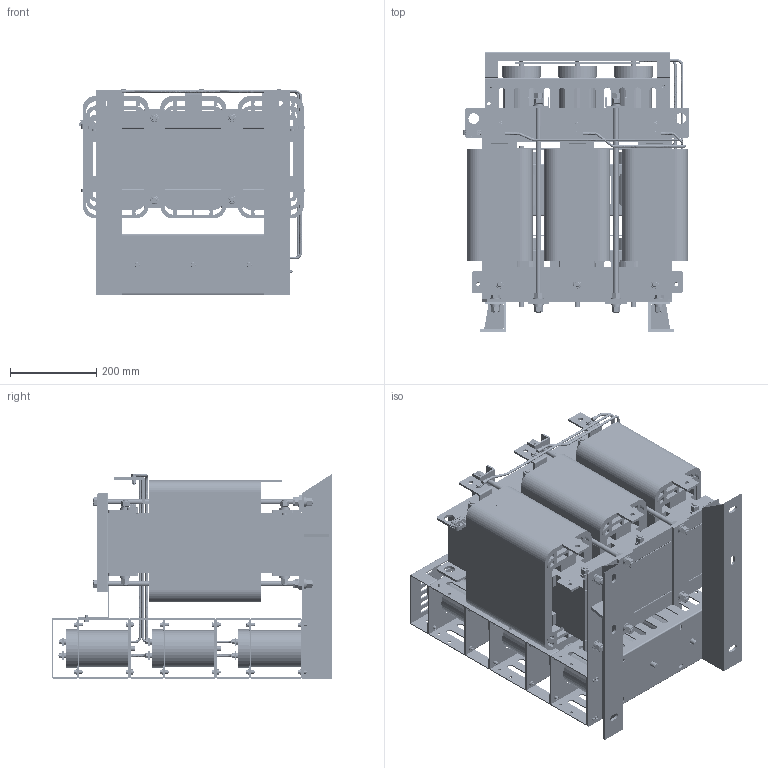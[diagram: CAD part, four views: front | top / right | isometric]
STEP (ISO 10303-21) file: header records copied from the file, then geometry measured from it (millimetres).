
FILE_DESCRIPTION(('STEP AP203'), '1');
FILE_NAME('蔓躅漤铋 耔眢耥 翳朦蝠 _ ISINOF-220_286-6', '', ('UNSPECIFIED'), ('UNSPECIFIED'), 'C3D Converter', 'C3D Toolkit', '');
FILE_SCHEMA(('CONFIG_CONTROL_DESIGN'));
Length unit declared in the file: millimetre
Products named in the file (49): ISINOF-220/286-6; LРНЦ吭X2\04560415\X0\1; M12x210; M12x520; RNB14-6S; 吒X2\0425\X0\86-145; UРНС№Мх 50x25x4; 琵X2\04270405041504230422\X0\; 琵X2\04270405041504270443\X0\; 琵X2\04370418042D0426\X0\吭X2\04560415\X0\; 愧X2\0437\X0\琵X2\0410\X0\ іЕМх; ёЗЧУ; №么X2\04270426041C0445\X0\12x10x260; ї琵X2\041E\X0\做зЧУKV223-2P; А降еМх450-80-2; А降еМх琵X2\0436\X0\豹X2\0435\X0\80-98-2; Б枯X2\04050423\X0\豹X2\0435\X0\; ДЪДёЕЕ40x5; ЖЅ豹X2\043504560415\X0\豹X2\0435\X0\ 12X30X260; ЖЅ豹X2\043504560415\X0\豹X2\0435\X0\20X50X260; ИэПаМъРѕ440-450-136; ЙПјРјю-560ЎБ80ЎБ6; НвДёЕЕ40x5; ПВјРјю-490ЎБ80ЎБ40; ПЯИ¦286A; С№豹X2\0435\X0\; ПВјРјю490ЎБ80ЎБ40; plain washers--product grade c gb_GB_FASTENER_WASHER_SMWC 12; spring lock washers--normal type gb_GB_FASTENER_WASHER_SW 12; hexagon nuts grade c gb_GB_FASTENER_NUT_SNC1 M12-N; hex head bolts-full thread grade c gb_GB_FASTENER_BOLT_HHBFTC M12X35-N; plain washers--product grade c gb_GB_FASTENER_WASHER_SMWC 6; hex head bolts-full thread grade c gb_GB_FASTENER_BOLT_HHBFTC M6X12-N; 琵X2\04370418042D0458042C\X0\ ; Cable_1-ХэПТІЁВЛІЁЖчSKS-SF-0286-6AЈЇ05-001; 琵X2\043704100412\X0\^Cable_1-ХэПТІЁВЛІЁЖчSKS-SF-0286-6AЈЇ05-001; Cable_2-ХэПТІЁВЛІЁЖчSKS-SF-0286-6AЈЇ05; 琵X2\043704100412\X0\^Cable_2-ХэПТІЁВЛІЁЖчSKS-SF-0286-6AЈЇ05; Cable_3-ХэПТІЁВЛІЁЖчSKS-SF-0286-6AЈЇ05; 琵X2\043704100412\X0\^Cable_3-ХэПТІЁВЛІЁЖчSKS-SF-0286-6AЈЇ05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
Assembly tree (350 placements, depth 3):
  ISINOF-220/286-6
    LРНЦ吭X2\04560415\X0\1
    M12x210  x6
    M12x520  x4
    RNB14-6S  x9
    吒X2\0425\X0\86-145  x9
    UРНС№Мх 50x25x4  x2
    琵X2\04270405041504230422\X0\
    琵X2\04270405041504270443\X0\
    琵X2\04370418042D0426\X0\吭X2\04560415\X0\  x4
    愧X2\0437\X0\琵X2\0410\X0\ іЕМх  x12
    ёЗЧУ
    №么X2\04270426041C0445\X0\12x10x260  x24
    ї琵X2\041E\X0\做зЧУKV223-2P
    А降еМх450-80-2  x6
    А降еМх琵X2\0436\X0\豹X2\0435\X0\80-98-2  x8
    Б枯X2\04050423\X0\豹X2\0435\X0\  x6
    ДЪДёЕЕ40x5  x3
    ЖЅ豹X2\043504560415\X0\豹X2\0435\X0\ 12X30X260  x12
    ЖЅ豹X2\043504560415\X0\豹X2\0435\X0\20X50X260  x6
    ИэПаМъРѕ440-450-136
    ЙПјРјю-560ЎБ80ЎБ6  x2
    НвДёЕЕ40x5  x3
    ПВјРјю-490ЎБ80ЎБ40
    ПЯИ¦286A  x3
    С№豹X2\0435\X0\  x2
    ПВјРјю490ЎБ80ЎБ40
    plain washers--product grade c gb_GB_FASTENER_WASHER_SMWC 12  x44
    spring lock washers--normal type gb_GB_FASTENER_WASHER_SW 12  x24
    hexagon nuts grade c gb_GB_FASTENER_NUT_SNC1 M12-N  x32
    hex head bolts-full thread grade c gb_GB_FASTENER_BOLT_HHBFTC M12X35-N  x4
    plain washers--product grade c gb_GB_FASTENER_WASHER_SMWC 6  x50
    hex head bolts-full thread grade c gb_GB_FASTENER_BOLT_HHBFTC M6X12-N  x20
    琵X2\04370418042D0458042C\X0\   x3
    Cable_1-ХэПТІЁВЛІЁЖчSKS-SF-0286-6AЈЇ05-001
      琵X2\043704100412\X0\^Cable_1-ХэПТІЁВЛІЁЖчSKS-SF-0286-6AЈЇ05-001
    Cable_2-ХэПТІЁВЛІЁЖчSKS-SF-0286-6AЈЇ05
      琵X2\043704100412\X0\^Cable_2-ХэПТІЁВЛІЁЖчSKS-SF-0286-6AЈЇ05
    Cable_3-ХэПТІЁВЛІЁЖчSKS-SF-0286-6AЈЇ05
      琵X2\043704100412\X0\^Cable_3-ХэПТІЁВЛІЁЖчSKS-SF-0286-6AЈЇ05
    Cable_4-ХэПТІЁВЛІЁЖчSKS-SF-0286-6AЈЇ05
      琵X2\043704100412\X0\^Cable_4-ХэПТІЁВЛІЁЖчSKS-SF-0286-6AЈЇ05
    spring lock washers--normal type gb_GB_FASTENER_WASHER_SW 6  x3
    hexagon nuts grade c gb_GB_FASTENER_NUT_SNC1 M6-N  x3
    hex head bolts-full thread grade c gb_GB_FASTENER_BOLT_HHBFTC M6X20-N  x3
    hex head bolts-full thread grade c gb_GB_FASTENER_BOLT_HHBFTC M6X16-N  x24
    L1 L2 L3МщЦЅ
    L1ЎЇ L2Ўｮ L3ЎЇМщЦЅ
    琵X2\0428\X0\崤X2\043A\X0\
Bounding box: 525.75 x 650 x 476 mm (x, y, z)
Volume: 49358341.1 mm3; surface area: 8847807.6 mm2
Topology: 382 solids, 382 shells, 4901 faces, 11177 edges, 7277 vertices
Faces by surface type: plane 2855, cylinder 1440, cone 549, bspline 39, torus 18
Full cylindrical faces by diameter (mm): 3 x2, 3.8 x2, 4 x4, 4.917 x3, 6 x107, 6.2 x9, 6.4 x9, 6.6 x50, 6.68 x3, 7 x24, 8 x49, 9.88 x3, 10.106 x32, 11 x6, 12 x83, 12.5 x18, 12.9 x24, 13.5 x44, 14 x59, 18.2 x1, 19 x1, 19.1 x24, 20 x1, 24 x44, 25 x4, 31.5 x6, 37.5 x6, 86 x18, 90 x18
Entity records: 79875 total; most frequent: CARTESIAN_POINT 24888, DIRECTION 7489, ORIENTED_EDGE 6690, EDGE_CURVE 3345, AXIS2_PLACEMENT_3D 2667, VERTEX_POINT 2332, LINE 2155, VECTOR 2155
